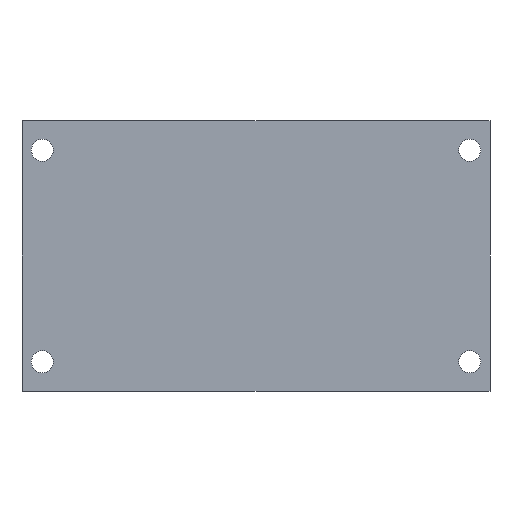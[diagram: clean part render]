
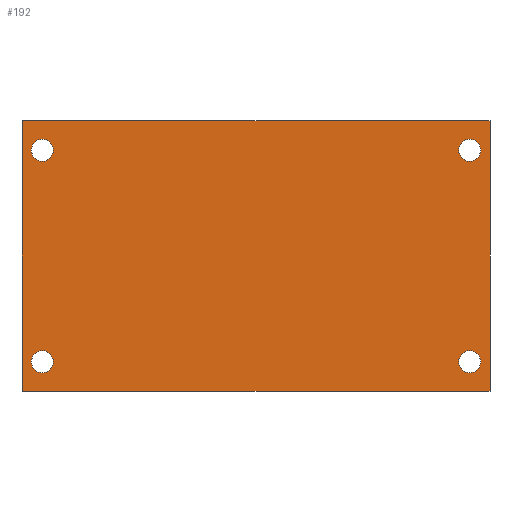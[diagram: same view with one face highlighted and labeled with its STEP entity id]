
A CAD part, front view. The second image highlights one B-rep face of the part: STEP entity #192.
In plain terms, the highlighted planar face has unit normal (0, -1, 0).
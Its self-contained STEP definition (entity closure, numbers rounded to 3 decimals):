
#192=ADVANCED_FACE('',(#470,#472,#474,#476,#478),#480,.T.);
#470=FACE_BOUND('',#471,.T.);
#471=EDGE_LOOP('',(#652,#653,#654,#655));
#472=FACE_BOUND('',#473,.T.);
#473=EDGE_LOOP('',(#656));
#474=FACE_BOUND('',#475,.T.);
#475=EDGE_LOOP('',(#657));
#476=FACE_BOUND('',#477,.T.);
#477=EDGE_LOOP('',(#658));
#478=FACE_BOUND('',#479,.T.);
#479=EDGE_LOOP('',(#659));
#480=PLANE('',#481);
#481=AXIS2_PLACEMENT_3D('',#482,#483,#484);
#482=CARTESIAN_POINT('',(23.75,0.,-16.6));
#483=DIRECTION('',(0.,-1.,0.));
#484=DIRECTION('',(0.,0.,-1.));
#652=ORIENTED_EDGE('',*,*,#694,.F.);
#653=ORIENTED_EDGE('',*,*,#722,.F.);
#654=ORIENTED_EDGE('',*,*,#701,.F.);
#655=ORIENTED_EDGE('',*,*,#723,.F.);
#656=ORIENTED_EDGE('',*,*,#724,.T.);
#657=ORIENTED_EDGE('',*,*,#725,.T.);
#658=ORIENTED_EDGE('',*,*,#726,.T.);
#659=ORIENTED_EDGE('',*,*,#727,.T.);
#694=EDGE_CURVE('',#755,#757,#758,.T.);
#701=EDGE_CURVE('',#768,#770,#771,.T.);
#722=EDGE_CURVE('',#770,#755,#806,.T.);
#723=EDGE_CURVE('',#757,#768,#807,.T.);
#724=EDGE_CURVE('',#808,#808,#809,.T.);
#725=EDGE_CURVE('',#810,#810,#811,.T.);
#726=EDGE_CURVE('',#812,#812,#813,.T.);
#727=EDGE_CURVE('',#814,#814,#815,.T.);
#755=VERTEX_POINT('',#877);
#757=VERTEX_POINT('',#881);
#758=LINE('',#882,#883);
#768=VERTEX_POINT('',#904);
#770=VERTEX_POINT('',#908);
#771=LINE('',#909,#910);
#806=LINE('',#998,#999);
#807=LINE('',#1001,#1002);
#808=VERTEX_POINT('',#1004);
#809=CIRCLE('',#1005,1.35);
#810=VERTEX_POINT('',#1009);
#811=CIRCLE('',#1010,1.35);
#812=VERTEX_POINT('',#1014);
#813=CIRCLE('',#1015,1.35);
#814=VERTEX_POINT('',#1019);
#815=CIRCLE('',#1020,1.35);
#877=CARTESIAN_POINT('',(-5.,0.,0.));
#881=CARTESIAN_POINT('',(52.5,0.,0.));
#882=CARTESIAN_POINT('',(-5.,0.,0.));
#883=VECTOR('',#884,1.);
#884=DIRECTION('',(1.,0.,0.));
#904=CARTESIAN_POINT('',(52.5,0.,-33.2));
#908=CARTESIAN_POINT('',(-5.,0.,-33.2));
#909=CARTESIAN_POINT('',(52.5,0.,-33.2));
#910=VECTOR('',#911,1.);
#911=DIRECTION('',(-1.,0.,0.));
#998=CARTESIAN_POINT('',(-5.,0.,-33.2));
#999=VECTOR('',#1000,1.);
#1000=DIRECTION('',(0.,0.,1.));
#1001=CARTESIAN_POINT('',(52.5,0.,0.));
#1002=VECTOR('',#1003,1.);
#1003=DIRECTION('',(0.,0.,-1.));
#1004=CARTESIAN_POINT('',(-1.15,0.,-29.6));
#1005=AXIS2_PLACEMENT_3D('',#1006,#1007,#1008);
#1006=CARTESIAN_POINT('',(-2.5,0.,-29.6));
#1007=DIRECTION('',(0.,1.,0.));
#1008=DIRECTION('',(1.,0.,0.));
#1009=CARTESIAN_POINT('',(-1.15,0.,-3.6));
#1010=AXIS2_PLACEMENT_3D('',#1011,#1012,#1013);
#1011=CARTESIAN_POINT('',(-2.5,0.,-3.6));
#1012=DIRECTION('',(0.,1.,0.));
#1013=DIRECTION('',(1.,0.,0.));
#1014=CARTESIAN_POINT('',(51.35,0.,-3.6));
#1015=AXIS2_PLACEMENT_3D('',#1016,#1017,#1018);
#1016=CARTESIAN_POINT('',(50.,0.,-3.6));
#1017=DIRECTION('',(0.,1.,0.));
#1018=DIRECTION('',(1.,0.,0.));
#1019=CARTESIAN_POINT('',(51.35,0.,-29.6));
#1020=AXIS2_PLACEMENT_3D('',#1021,#1022,#1023);
#1021=CARTESIAN_POINT('',(50.,0.,-29.6));
#1022=DIRECTION('',(0.,1.,0.));
#1023=DIRECTION('',(1.,0.,0.));
